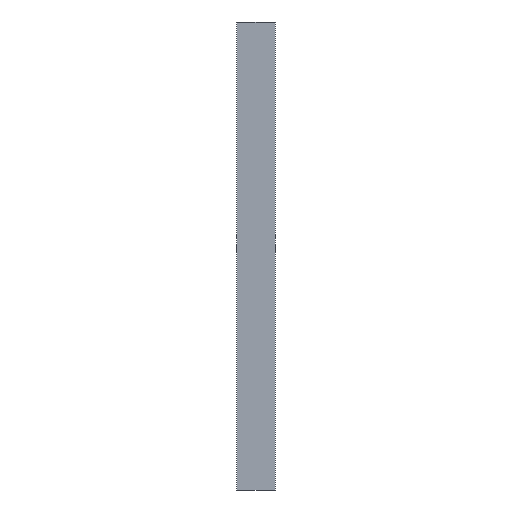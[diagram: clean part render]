
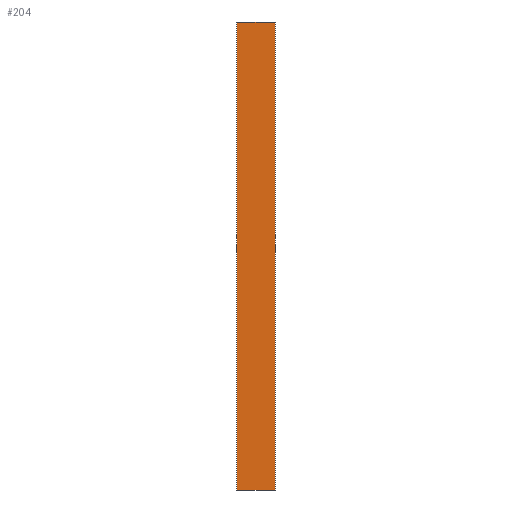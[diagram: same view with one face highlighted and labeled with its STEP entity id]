
A CAD part, left-side view. The second image highlights one B-rep face of the part: STEP entity #204.
In plain terms, the highlighted planar face has unit normal (-1, 0, 0).
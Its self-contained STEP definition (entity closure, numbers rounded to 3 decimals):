
#6 = VECTOR ( 'NONE', #286, 1000. ) ;
#31 = ORIENTED_EDGE ( 'NONE', *, *, #135, .T. ) ;
#32 = ORIENTED_EDGE ( 'NONE', *, *, #104, .T. ) ;
#33 = ORIENTED_EDGE ( 'NONE', *, *, #124, .F. ) ;
#37 = ORIENTED_EDGE ( 'NONE', *, *, #138, .F. ) ;
#53 = EDGE_LOOP ( 'NONE', ( #37, #33, #32, #31 ) ) ;
#66 = LINE ( 'NONE', #293, #6 ) ;
#77 = CARTESIAN_POINT ( 'NONE',  ( -5.25, 15., -367.1 ) ) ;
#84 = CARTESIAN_POINT ( 'NONE',  ( -5.25, -15., -367.1 ) ) ;
#85 = CARTESIAN_POINT ( 'NONE',  ( -5.25, -15., 0. ) ) ;
#104 = EDGE_CURVE ( 'NONE', #335, #328, #66, .T. ) ;
#115 = AXIS2_PLACEMENT_3D ( 'NONE', #285, #279, #276 ) ;
#124 = EDGE_CURVE ( 'NONE', #335, #297, #152, .T. ) ;
#135 = EDGE_CURVE ( 'NONE', #328, #317, #172, .T. ) ;
#138 = EDGE_CURVE ( 'NONE', #297, #317, #178, .T. ) ;
#152 = LINE ( 'NONE', #336, #158 ) ;
#158 = VECTOR ( 'NONE', #327, 1000. ) ;
#172 = LINE ( 'NONE', #309, #173 ) ;
#173 = VECTOR ( 'NONE', #308, 1000. ) ;
#178 = LINE ( 'NONE', #299, #179 ) ;
#179 = VECTOR ( 'NONE', #298, 1000. ) ;
#185 = FACE_OUTER_BOUND ( 'NONE', #53, .T. ) ;
#204 = ADVANCED_FACE ( 'NONE', ( #185 ), #322, .T. ) ;
#241 = CARTESIAN_POINT ( 'NONE',  ( -5.25, 15., 0. ) ) ;
#276 = DIRECTION ( 'NONE',  ( 0., 0., 1. ) ) ;
#279 = DIRECTION ( 'NONE',  ( -1., 0., 0. ) ) ;
#285 = CARTESIAN_POINT ( 'NONE',  ( -5.25, -15., -367.1 ) ) ;
#286 = DIRECTION ( 'NONE',  ( 0., -1., 0. ) ) ;
#293 = CARTESIAN_POINT ( 'NONE',  ( -5.25, -15., -367.1 ) ) ;
#297 = VERTEX_POINT ( 'NONE', #241 ) ;
#298 = DIRECTION ( 'NONE',  ( 0., -1., 0. ) ) ;
#299 = CARTESIAN_POINT ( 'NONE',  ( -5.25, -15., 0. ) ) ;
#308 = DIRECTION ( 'NONE',  ( 0., 0., 1. ) ) ;
#309 = CARTESIAN_POINT ( 'NONE',  ( -5.25, -15., -367.1 ) ) ;
#317 = VERTEX_POINT ( 'NONE', #85 ) ;
#322 = PLANE ( 'NONE',  #115 ) ;
#327 = DIRECTION ( 'NONE',  ( 0., 0., 1. ) ) ;
#328 = VERTEX_POINT ( 'NONE', #84 ) ;
#335 = VERTEX_POINT ( 'NONE', #77 ) ;
#336 = CARTESIAN_POINT ( 'NONE',  ( -5.25, 15., -367.1 ) ) ;
